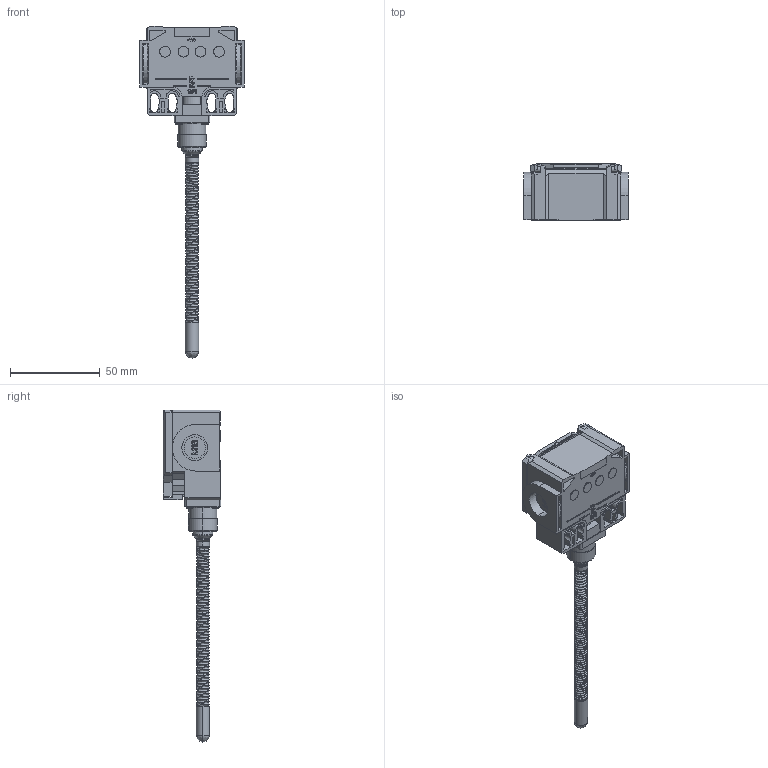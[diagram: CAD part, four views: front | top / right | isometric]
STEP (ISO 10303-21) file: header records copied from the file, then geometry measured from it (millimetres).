
FILE_DESCRIPTION((''),'2;1');
FILE_NAME('BI2-FF_ASM','2014-07-24T',('Yvonne.Storm'),(''),'PRO/ENGINEER BY PARAMETRIC TECHNOLOGY CORPORATION, 2012360','PRO/ENGINEER BY PARAMETRIC TECHNOLOGY CORPORATION, 2012360','');
FILE_SCHEMA(('AUTOMOTIVE_DESIGN { 1 0 10303 214 1 1 1 1 }'));
Products named in the file (2): _BI2-FF; BI2-FF_ASM
Assembly tree (1 placements, depth 2):
  BI2-FF_ASM
    _BI2-FF
Bounding box: 58 x 32.1 x 184.95 mm (x, y, z)
Surface area: 27561 mm2 (no closed solid volume)
Topology: 0 solids, 43 shells, 516 faces, 2233 edges, 1735 vertices
Faces by surface type: plane 309, cylinder 107, bspline 40, cone 22, torus 22, sphere 16
Entity records: 46768 total; most frequent: CARTESIAN_POINT 26878, ORIENTED_EDGE 3372, DIRECTION 3270, EDGE_CURVE 2227, VERTEX_POINT 1735, VECTOR 1590, LINE 1590, AXIS2_PLACEMENT_3D 840
